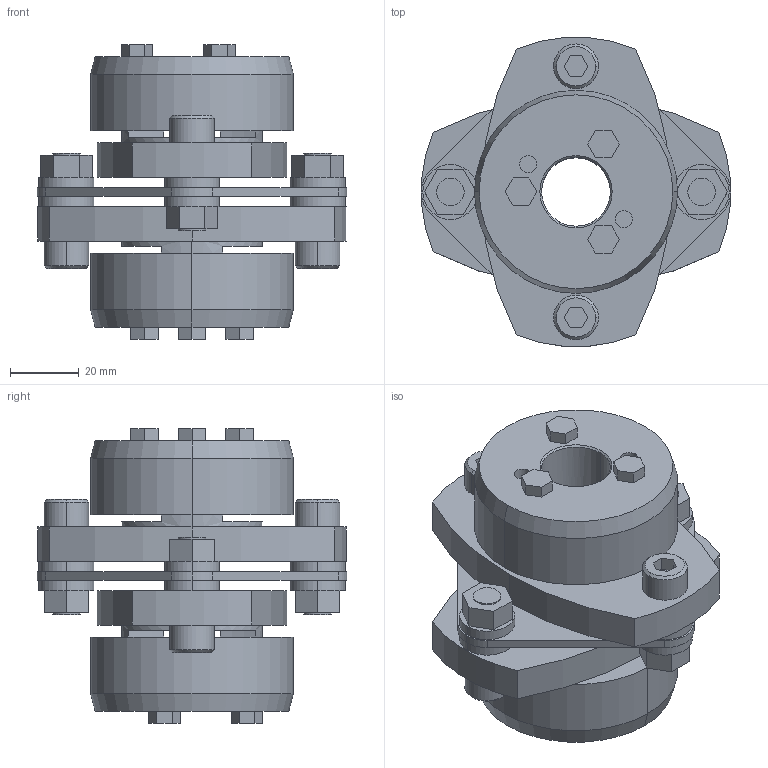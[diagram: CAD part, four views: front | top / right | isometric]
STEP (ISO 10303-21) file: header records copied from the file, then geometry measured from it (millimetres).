
FILE_DESCRIPTION((''),'2;1');
FILE_NAME('LCS-90T7-20×20.stp','2011-09-09T09:54:07',(''),(''),'AutoCAD STEP 2000i','AutoCAD 2000i',', , ');
FILE_SCHEMA(('CONFIG_CONTROL_DESIGN'));
Length unit declared in the file: millimetre
Products named in the file (7): LCS-90T7-19×19; 忣兜1; LC90T7-T019-1; LC90T7-T019; LC90-B019-1; LC90-B019; LCS90-ITA
Assembly tree (6 placements, depth 2):
  LCS-90T7-19×19
    忣兜1
    LC90T7-T019-1
    LC90T7-T019
    LC90-B019-1
    LC90-B019
    LCS90-ITA
Bounding box: 90 x 89.94 x 85.5 mm (x, y, z)
Volume: 206527.2 mm3; surface area: 52519.5 mm2
Topology: 1 solids, 1 shells, 232 faces, 568 edges, 372 vertices
Faces by surface type: plane 132, cylinder 80, cone 20
Entity records: 7063 total; most frequent: DIRECTION 1242, CARTESIAN_POINT 1179, ORIENTED_EDGE 1136, EDGE_CURVE 568, AXIS2_PLACEMENT_3D 435, VERTEX_POINT 372, VECTOR 372, LINE 372
